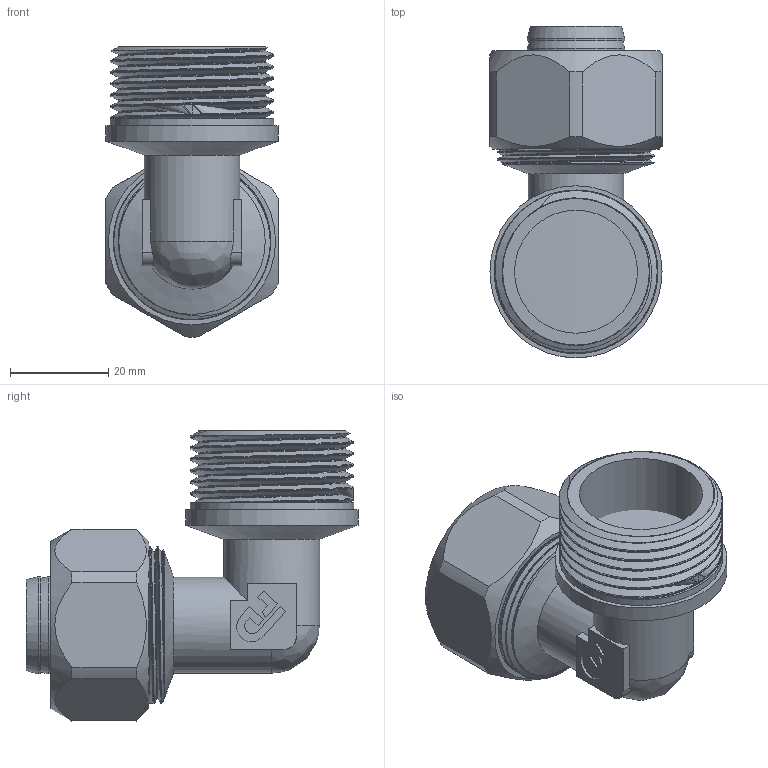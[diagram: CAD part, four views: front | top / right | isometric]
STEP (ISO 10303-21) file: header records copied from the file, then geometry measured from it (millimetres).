
FILE_DESCRIPTION(/* description */ (''),/* implementation_level */ '2;1');
FILE_NAME(/* name */ 'C:\Users\Doom\Desktop\Фадотех\Обжим\RFU25 26X1M 30.03.2020\RFU25 26X1M 30.03.2020.stp',/* time_stamp */ '2022-06-01T17:04:22+03:00',/* author */ ('Doom'),/* organization */ (''),/* preprocessor_version */ 'ST-DEVELOPER v18',/* originating_system */ 'Autodesk Inventor 2020',/* authorisation */ '');
FILE_SCHEMA (('AUTOMOTIVE_DESIGN { 1 0 10303 214 3 1 1 }'));
Length unit declared in the file: millimetre
Products named in the file (5): RFU25 26X1M 30.03.2020; RFU25 26X1M 30.03.2020_1; FADO MC Nut-26 15.02.2020; FADO MC Socket-26 15.02.2020; Olive 26 15.02.2020
Assembly tree (4 placements, depth 2):
  RFU25 26X1M 30.03.2020
    RFU25 26X1M 30.03.2020_1
    FADO MC Nut-26 15.02.2020
    FADO MC Socket-26 15.02.2020
    Olive 26 15.02.2020
Bounding box: 35 x 67.5 x 59 mm (x, y, z)
Volume: 29353.9 mm3; surface area: 34785.7 mm2
Topology: 7 solids, 7 shells, 582 faces, 1611 edges, 1086 vertices
Faces by surface type: bspline 282, plane 182, cylinder 95, cone 20, torus 3
Full cylindrical faces by diameter (mm): 15.5 x1, 16 x2, 17.6 x2, 19.5 x2, 19.8 x5, 21 x1, 24 x2, 24.5 x1, 25 x1, 26.5 x1, 29.776 x2, 29.816 x2, 30 x1, 30.517 x11, 30.6 x1, 32 x9, 33.24 x7, 35 x1
Entity records: 36519 total; most frequent: CARTESIAN_POINT 23295, ORIENTED_EDGE 3210, DIRECTION 1850, EDGE_CURVE 1605, VERTEX_POINT 1084, LINE 656, VECTOR 656, B_SPLINE_CURVE_WITH_KNOTS 645
